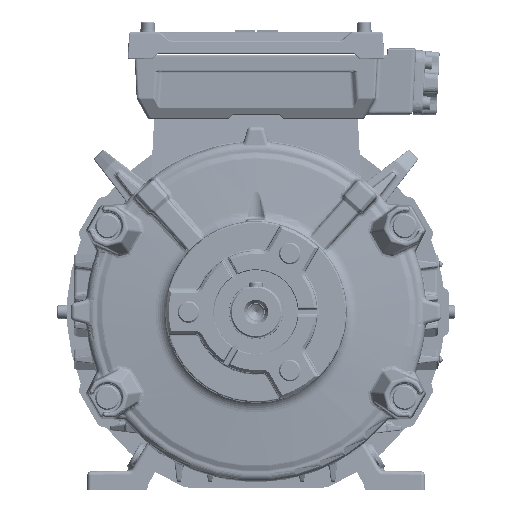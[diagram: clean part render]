
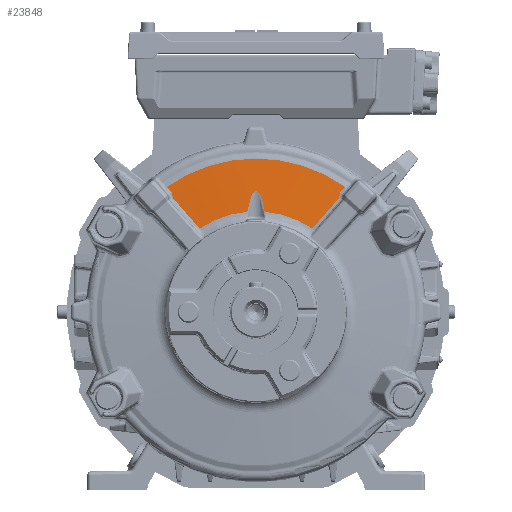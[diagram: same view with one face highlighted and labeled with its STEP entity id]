
A CAD part, front view. The second image highlights one B-rep face of the part: STEP entity #23848.
In plain terms, the highlighted conical face has half-angle 85 degrees and reference radius 114 mm.
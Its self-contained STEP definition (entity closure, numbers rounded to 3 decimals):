
#17410=FACE_OUTER_BOUND('',#36190,.T.);
#23848=ADVANCED_FACE('',(#17410),#28687,.T.);
#28687=CONICAL_SURFACE('',#90568,114.,85.);
#29395=CIRCLE('',#90523,113.553);
#29423=CIRCLE('',#90566,74.455);
#29424=CIRCLE('',#90567,74.455);
#36190=EDGE_LOOP('',(#45030,#45031,#45032,#45033,#45034,#45035,#45036,#45037,
#45038,#45039,#45040,#45041));
#45030=ORIENTED_EDGE('',*,*,#76002,.F.);
#45031=ORIENTED_EDGE('',*,*,#75674,.T.);
#45032=ORIENTED_EDGE('',*,*,#76003,.F.);
#45033=ORIENTED_EDGE('',*,*,#75669,.T.);
#45034=ORIENTED_EDGE('',*,*,#75667,.T.);
#45035=ORIENTED_EDGE('',*,*,#75933,.T.);
#45036=ORIENTED_EDGE('',*,*,#76004,.T.);
#45037=ORIENTED_EDGE('',*,*,#75936,.T.);
#45038=ORIENTED_EDGE('',*,*,#76005,.T.);
#45039=ORIENTED_EDGE('',*,*,#75918,.T.);
#45040=ORIENTED_EDGE('',*,*,#75666,.T.);
#45041=ORIENTED_EDGE('',*,*,#75664,.T.);
#67610=VERTEX_POINT('',#129668);
#67620=VERTEX_POINT('',#129807);
#67661=VERTEX_POINT('',#130238);
#67662=VERTEX_POINT('',#130243);
#67663=VERTEX_POINT('',#130283);
#67664=VERTEX_POINT('',#130301);
#67665=VERTEX_POINT('',#130316);
#67668=VERTEX_POINT('',#130342);
#67831=VERTEX_POINT('',#131626);
#67839=VERTEX_POINT('',#131762);
#67841=VERTEX_POINT('',#131822);
#67842=VERTEX_POINT('',#131823);
#75664=EDGE_CURVE('',#67662,#67661,#86948,.T.);
#75666=EDGE_CURVE('',#67610,#67662,#86949,.T.);
#75667=EDGE_CURVE('',#67663,#67620,#86950,.T.);
#75669=EDGE_CURVE('',#67664,#67663,#86951,.T.);
#75674=EDGE_CURVE('',#67665,#67668,#86953,.T.);
#75918=EDGE_CURVE('',#67831,#67610,#87005,.T.);
#75933=EDGE_CURVE('',#67620,#67839,#87011,.T.);
#75936=EDGE_CURVE('',#67841,#67842,#29395,.T.);
#76002=EDGE_CURVE('',#67665,#67661,#29423,.T.);
#76003=EDGE_CURVE('',#67664,#67668,#29424,.T.);
#76004=EDGE_CURVE('',#67839,#67841,#87041,.T.);
#76005=EDGE_CURVE('',#67842,#67831,#87042,.T.);
#86948=B_SPLINE_CURVE_WITH_KNOTS('',3,(#130239,#130240,#130241,#130242),
 .UNSPECIFIED.,.F.,.F.,(4,4),(0.,1.),.UNSPECIFIED.);
#86949=B_SPLINE_CURVE_WITH_KNOTS('',3,(#130257,#130258,#130259,#130260,
#130261,#130262,#130263),.UNSPECIFIED.,.F.,.F.,(4,3,4),(0.,0.204,
1.),.UNSPECIFIED.);
#86950=B_SPLINE_CURVE_WITH_KNOTS('',3,(#130276,#130277,#130278,#130279,
#130280,#130281,#130282),.UNSPECIFIED.,.F.,.F.,(4,3,4),(0.,0.173,
1.),.UNSPECIFIED.);
#86951=B_SPLINE_CURVE_WITH_KNOTS('',3,(#130297,#130298,#130299,#130300),
 .UNSPECIFIED.,.F.,.F.,(4,4),(0.,1.),.UNSPECIFIED.);
#86953=B_SPLINE_CURVE_WITH_KNOTS('',3,(#130343,#130344,#130345,#130346,
#130347,#130348,#130349,#130350,#130351,#130352,#130353,#130354,#130355,
#130356,#130357,#130358,#130359,#130360),.UNSPECIFIED.,.F.,.F.,(4,2,2,2,
2,2,2,2,4),(0.,0.25,0.375,0.438,0.5,
0.563,0.625,0.75,1.),.UNSPECIFIED.);
#87005=B_SPLINE_CURVE_WITH_KNOTS('',3,(#131664,#131665,#131666,#131667,
#131668,#131669,#131670),.UNSPECIFIED.,.F.,.F.,(4,3,4),(0.,0.614,
1.),.UNSPECIFIED.);
#87011=B_SPLINE_CURVE_WITH_KNOTS('',3,(#131763,#131764,#131765,#131766,
#131767,#131768,#131769),.UNSPECIFIED.,.F.,.F.,(4,3,4),(0.,0.836,
1.),.UNSPECIFIED.);
#87041=B_SPLINE_CURVE_WITH_KNOTS('',3,(#132432,#132433,#132434,#132435),
 .UNSPECIFIED.,.F.,.F.,(4,4),(0.,1.),.UNSPECIFIED.);
#87042=B_SPLINE_CURVE_WITH_KNOTS('',3,(#132436,#132437,#132438,#132439),
 .UNSPECIFIED.,.F.,.F.,(4,4),(0.,1.),.UNSPECIFIED.);
#90523=AXIS2_PLACEMENT_3D('',#131821,#101540,#101541);
#90566=AXIS2_PLACEMENT_3D('',#132430,#101632,#101633);
#90567=AXIS2_PLACEMENT_3D('',#132431,#101634,#101635);
#90568=AXIS2_PLACEMENT_3D('',#132440,#101636,#101637);
#101540=DIRECTION('',(0.,-1.,0.));
#101541=DIRECTION('',(0.,0.,-1.));
#101632=DIRECTION('',(0.,-1.,0.));
#101633=DIRECTION('',(0.,0.,-1.));
#101634=DIRECTION('',(0.,-1.,0.));
#101635=DIRECTION('',(0.,0.,-1.));
#101636=DIRECTION('',(0.,1.,0.));
#101637=DIRECTION('',(0.,0.,1.));
#129668=CARTESIAN_POINT('',(-61.525,-16.253,84.386));
#129807=CARTESIAN_POINT('',(61.525,-16.253,84.386));
#130238=CARTESIAN_POINT('',(-41.711,-18.876,61.674));
#130239=CARTESIAN_POINT('',(-42.305,-18.797,62.357));
#130240=CARTESIAN_POINT('',(-42.107,-18.823,62.13));
#130241=CARTESIAN_POINT('',(-41.909,-18.85,61.902));
#130242=CARTESIAN_POINT('',(-41.711,-18.876,61.674));
#130243=CARTESIAN_POINT('',(-42.305,-18.797,62.357));
#130257=CARTESIAN_POINT('',(-61.525,-16.253,84.386));
#130258=CARTESIAN_POINT('',(-60.215,-16.427,82.885));
#130259=CARTESIAN_POINT('',(-58.905,-16.6,81.384));
#130260=CARTESIAN_POINT('',(-57.595,-16.774,79.882));
#130261=CARTESIAN_POINT('',(-52.498,-17.449,74.041));
#130262=CARTESIAN_POINT('',(-47.402,-18.124,68.199));
#130263=CARTESIAN_POINT('',(-42.305,-18.797,62.357));
#130276=CARTESIAN_POINT('',(42.305,-18.797,62.357));
#130277=CARTESIAN_POINT('',(43.417,-18.65,63.631));
#130278=CARTESIAN_POINT('',(44.528,-18.504,64.905));
#130279=CARTESIAN_POINT('',(45.64,-18.357,66.179));
#130280=CARTESIAN_POINT('',(50.935,-17.656,72.249));
#130281=CARTESIAN_POINT('',(56.23,-16.955,78.318));
#130282=CARTESIAN_POINT('',(61.525,-16.253,84.386));
#130283=CARTESIAN_POINT('',(42.305,-18.797,62.357));
#130297=CARTESIAN_POINT('',(41.711,-18.876,61.674));
#130298=CARTESIAN_POINT('',(41.909,-18.85,61.902));
#130299=CARTESIAN_POINT('',(42.107,-18.823,62.13));
#130300=CARTESIAN_POINT('',(42.305,-18.797,62.357));
#130301=CARTESIAN_POINT('',(41.711,-18.876,61.674));
#130316=CARTESIAN_POINT('',(-6.468,-18.876,74.173));
#130342=CARTESIAN_POINT('',(6.468,-18.876,74.173));
#130343=CARTESIAN_POINT('',(-6.468,-18.876,74.173));
#130344=CARTESIAN_POINT('',(-5.966,-18.633,77.));
#130345=CARTESIAN_POINT('',(-5.375,-18.392,79.805));
#130346=CARTESIAN_POINT('',(-4.102,-18.039,83.922));
#130347=CARTESIAN_POINT('',(-3.62,-17.922,85.278));
#130348=CARTESIAN_POINT('',(-2.638,-17.758,87.194));
#130349=CARTESIAN_POINT('',(-2.266,-17.704,87.822));
#130350=CARTESIAN_POINT('',(-1.313,-17.611,88.906));
#130351=CARTESIAN_POINT('',(-0.662,-17.569,89.397));
#130352=CARTESIAN_POINT('',(0.777,-17.573,89.345));
#130353=CARTESIAN_POINT('',(1.401,-17.618,88.827));
#130354=CARTESIAN_POINT('',(2.327,-17.712,87.729));
#130355=CARTESIAN_POINT('',(2.687,-17.765,87.109));
#130356=CARTESIAN_POINT('',(3.657,-17.931,85.183));
#130357=CARTESIAN_POINT('',(4.129,-18.046,83.844));
#130358=CARTESIAN_POINT('',(5.38,-18.395,79.774));
#130359=CARTESIAN_POINT('',(5.97,-18.635,76.979));
#130360=CARTESIAN_POINT('',(6.468,-18.876,74.173));
#131626=CARTESIAN_POINT('',(-62.085,-15.973,87.92));
#131664=CARTESIAN_POINT('',(-62.085,-15.973,87.92));
#131665=CARTESIAN_POINT('',(-61.97,-16.031,87.197));
#131666=CARTESIAN_POINT('',(-61.856,-16.088,86.475));
#131667=CARTESIAN_POINT('',(-61.741,-16.145,85.752));
#131668=CARTESIAN_POINT('',(-61.669,-16.181,85.297));
#131669=CARTESIAN_POINT('',(-61.597,-16.217,84.842));
#131670=CARTESIAN_POINT('',(-61.525,-16.253,84.386));
#131762=CARTESIAN_POINT('',(62.085,-15.973,87.92));
#131763=CARTESIAN_POINT('',(61.525,-16.253,84.386));
#131764=CARTESIAN_POINT('',(61.681,-16.175,85.371));
#131765=CARTESIAN_POINT('',(61.837,-16.097,86.356));
#131766=CARTESIAN_POINT('',(61.993,-16.019,87.34));
#131767=CARTESIAN_POINT('',(62.023,-16.004,87.534));
#131768=CARTESIAN_POINT('',(62.054,-15.989,87.727));
#131769=CARTESIAN_POINT('',(62.085,-15.973,87.92));
#131821=CARTESIAN_POINT('',(0.,-15.455,0.));
#131822=CARTESIAN_POINT('',(65.998,-15.455,92.405));
#131823=CARTESIAN_POINT('',(-65.998,-15.455,92.405));
#132430=CARTESIAN_POINT('',(0.,-18.876,0.));
#132431=CARTESIAN_POINT('',(0.,-18.876,0.));
#132432=CARTESIAN_POINT('',(62.085,-15.973,87.92));
#132433=CARTESIAN_POINT('',(63.389,-15.801,89.415));
#132434=CARTESIAN_POINT('',(64.693,-15.628,90.91));
#132435=CARTESIAN_POINT('',(65.998,-15.455,92.405));
#132436=CARTESIAN_POINT('',(-65.998,-15.455,92.405));
#132437=CARTESIAN_POINT('',(-64.693,-15.628,90.91));
#132438=CARTESIAN_POINT('',(-63.389,-15.801,89.415));
#132439=CARTESIAN_POINT('',(-62.085,-15.973,87.92));
#132440=CARTESIAN_POINT('',(0.,-15.416,0.));
